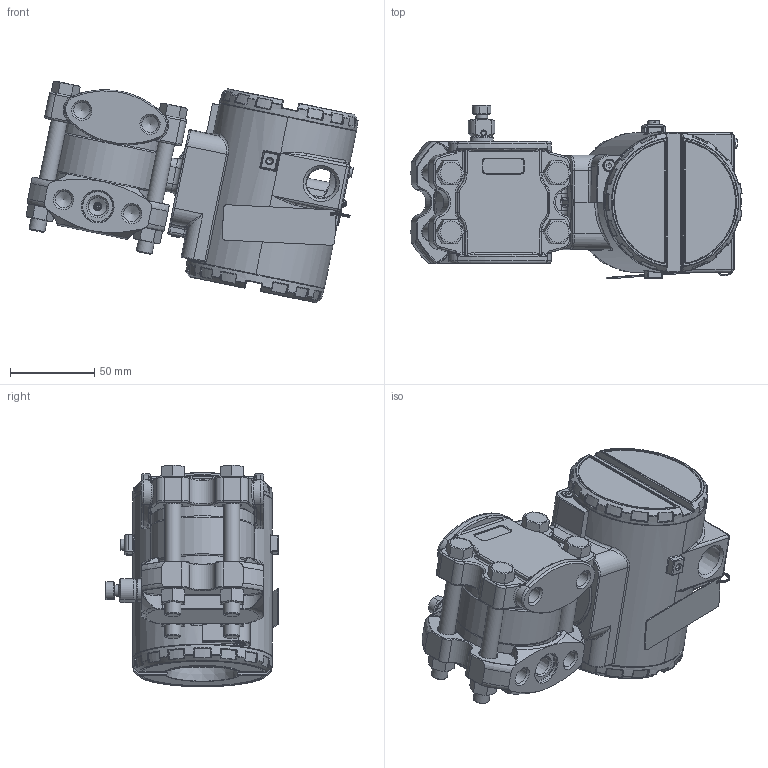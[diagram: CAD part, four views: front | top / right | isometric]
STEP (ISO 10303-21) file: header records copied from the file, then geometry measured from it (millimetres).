
FILE_DESCRIPTION(/* description */ (''),/* implementation_level */ '2;1');
FILE_NAME(/* name */ 'F:\Area\Desenvolvimento_2\Projects\Sensor\projetos\LD30X\montagens 3d - clientes\LD30XM0-3 1-4NPT Monel purga oposta.stp',/* time_stamp */ '2023-02-06T16:52:36-03:00',/* author */ ('inventor02'),/* organization */ (''),/* preprocessor_version */ 'ST-DEVELOPER v17',/* originating_system */ 'Autodesk Inventor 2019',/* authorisation */ '');
FILE_SCHEMA (('CONFIG_CONTROL_DESIGN'));
Length unit declared in the file: millimetre
Products named in the file (30): LD30XM0-3 1-4NPT Monel purga oposta; manometrico FX0-3 monel purga oposta; involucro fx0-3 apos a usinagem final; 101-C-0040-05 monel barra 7-16; 096-C-0014-13 manom reforçado; Paraf. 3-8 x 16 UNC; Porca 3-8 x 16 UNC; 075-B-0046-purgador; Sangria; carcaça vazia com tampas e plaqueta; carcaça LD inox sem letras; Subconjunto plaqueta 300; Plaqueta transmissor; Parafuso da Plaqueta; Rebite da Plaqueta; 096-A-0169-03; 101-A-0502-01; Chapa aterramento externo; ISO 1207 - M4 x 8; DIN 915 - M6 x 10; ANSI B18.3.1M - M4x0,7 x 8; Subconjunto tampa com visor aluminio; tampa pintada; VIDRO DO VISOR; oring 41x1 vidro tampa; Trava do vidro da tampa com visor; trava do vidro VH256; Subconjunto tampa sem visor-aluminio; tampa cega 300 pintada p0; 00034775-0
Assembly tree (37 placements, depth 4):
  LD30XM0-3 1-4NPT Monel purga oposta
    manometrico FX0-3 monel purga oposta
      involucro fx0-3 apos a usinagem final
      101-C-0040-05 monel barra 7-16
      096-C-0014-13 manom reforçado
      Paraf. 3-8 x 16 UNC  x4
      Porca 3-8 x 16 UNC  x4
      075-B-0046-purgador
      Sangria
    carcaça vazia com tampas e plaqueta
      carcaça LD inox sem letras
      Subconjunto plaqueta 300
        Plaqueta transmissor
        Parafuso da Plaqueta
        Rebite da Plaqueta
        096-A-0169-03
        101-A-0502-01
      Chapa aterramento externo
      ISO 1207 - M4 x 8
      DIN 915 - M6 x 10
      ANSI B18.3.1M - M4x0,7 x 8  x2
      Subconjunto tampa com visor aluminio
        tampa pintada
        VIDRO DO VISOR
        oring 41x1 vidro tampa
        Trava do vidro da tampa com visor
        trava do vidro VH256
        00034775-0
      Subconjunto tampa sem visor-aluminio
        tampa cega 300 pintada p0
        00034775-0
Bounding box: 197.06 x 103.1 x 131.45 mm (x, y, z)
Volume: 610078.6 mm3; surface area: 231037.2 mm2
Topology: 32 solids, 32 shells, 2320 faces, 5624 edges, 3335 vertices
Faces by surface type: bspline 587, cylinder 547, plane 456, torus 393, cone 230, sphere 107
Full cylindrical faces by diameter (mm): 2 x2, 2.1 x2, 2.459 x5, 2.642 x1, 2.7 x1, 3 x3, 3.242 x4, 3.5 x4, 3.571 x1, 4 x4, 4.3 x1, 4.4 x1, 4.917 x1, 5 x2, 5.5 x1, 6 x2, 6.8 x1, 7 x5, 7.087 x2, 7.6 x2, 7.798 x4, 8 x1, 8.7 x2, 9.525 x4, 9.728 x8, 10.5 x8, 10.719 x2, 12 x1, 13.8 x1, 14 x1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
Entity records: 82925 total; most frequent: CARTESIAN_POINT 32108, ORIENTED_EDGE 10658, DIRECTION 10232, EDGE_CURVE 5329, AXIS2_PLACEMENT_3D 4495, VERTEX_POINT 3201, CIRCLE 2665, EDGE_LOOP 2338
